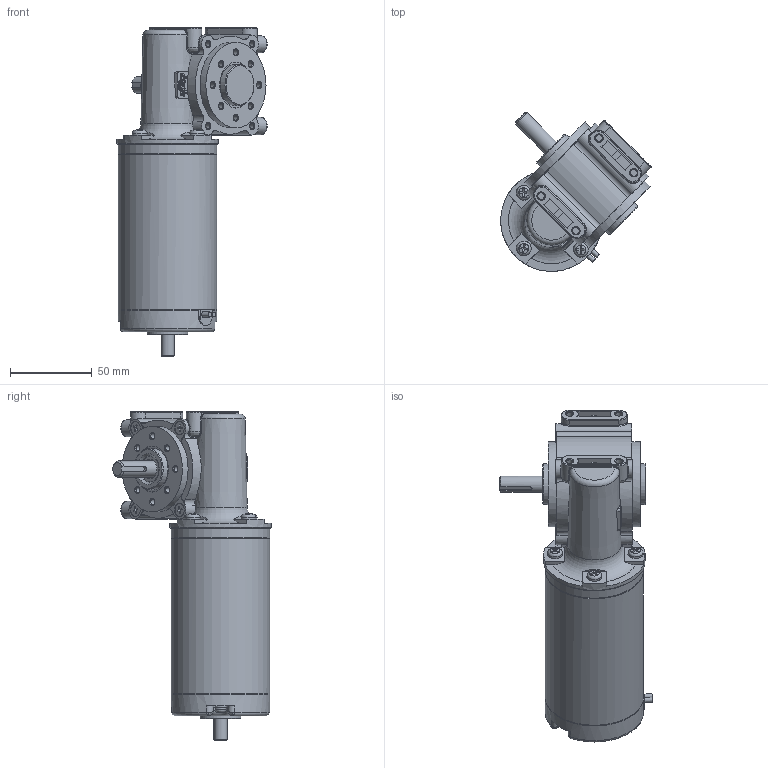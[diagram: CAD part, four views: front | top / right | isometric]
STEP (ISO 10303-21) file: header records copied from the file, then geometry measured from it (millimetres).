
FILE_DESCRIPTION(/* description */ (''),/* implementation_level */ '2;1');
FILE_NAME(/* name */ 'Z:\새 폴더\WORM GEARED RA6_3D\RA61BㅁR-3D.1.stp',/* time_stamp */ '2022-04-25T13:02:20+09:00',/* author */ ('umbro'),/* organization */ (''),/* preprocessor_version */ 'ST-DEVELOPER v17',/* originating_system */ 'Autodesk Inventor 2019',/* authorisation */ '');
FILE_SCHEMA (('AUTOMOTIVE_DESIGN { 1 0 10303 214 3 1 1 }'));
Length unit declared in the file: millimetre
Products named in the file (1): RA61BㅁR-3D
Bounding box: 91.65 x 96.65 x 200.5 mm (x, y, z)
Volume: 431691.7 mm3; surface area: 93523.4 mm2
Topology: 1 solids, 9 shells, 829 faces, 2115 edges, 1378 vertices
Faces by surface type: plane 428, cylinder 232, cone 90, bspline 48, torus 26, sphere 5
Full cylindrical faces by diameter (mm): 3 x2, 3.4 x22, 4 x6, 4.1 x8, 4.2 x4, 5 x6, 6.6 x2, 7.3 x2, 8 x6, 8.2 x4, 9 x2, 10 x2, 16 x2, 22 x1, 24 x2, 24.9 x1, 25 x3, 28 x2, 30 x2, 32 x1, 35 x1, 47 x1, 51 x1, 52 x2, 55 x1, 56 x2, 60 x3, 62 x1
Entity records: 28087 total; most frequent: CARTESIAN_POINT 6985, DIRECTION 4332, ORIENTED_EDGE 4208, EDGE_CURVE 2104, AXIS2_PLACEMENT_3D 1667, VERTEX_POINT 1378, LINE 998, VECTOR 998
